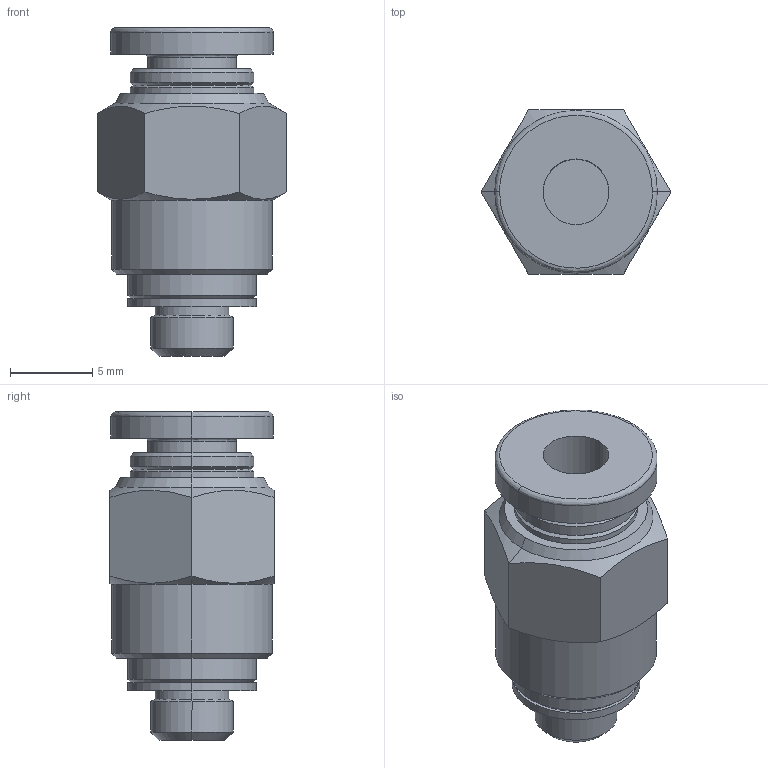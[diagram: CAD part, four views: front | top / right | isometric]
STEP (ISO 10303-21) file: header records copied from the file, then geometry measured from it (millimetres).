
FILE_DESCRIPTION (( 'STEP AP214' ), '1' );
FILE_NAME ('APC4-M5.STEP', '2019-12-05T06:08:10', ( '微软用户' ), ( '微软中国' ), 'SwSTEP 2.0', 'SolidWorks 2016', '' );
FILE_SCHEMA (( 'AUTOMOTIVE_DESIGN' ));
Length unit declared in the file: millimetre
Products named in the file (1): APC4-M5
Bounding box: 11.55 x 10 x 20 mm (x, y, z)
Volume: 1053.9 mm3; surface area: 1000.9 mm2
Topology: 1 solids, 1 shells, 63 faces, 131 edges, 77 vertices
Faces by surface type: cone 24, cylinder 20, plane 15, bspline 4
Entity records: 2006 total; most frequent: CARTESIAN_POINT 633, DIRECTION 298, ORIENTED_EDGE 262, EDGE_CURVE 131, AXIS2_PLACEMENT_3D 124, VERTEX_POINT 77, EDGE_LOOP 70, CIRCLE 64
